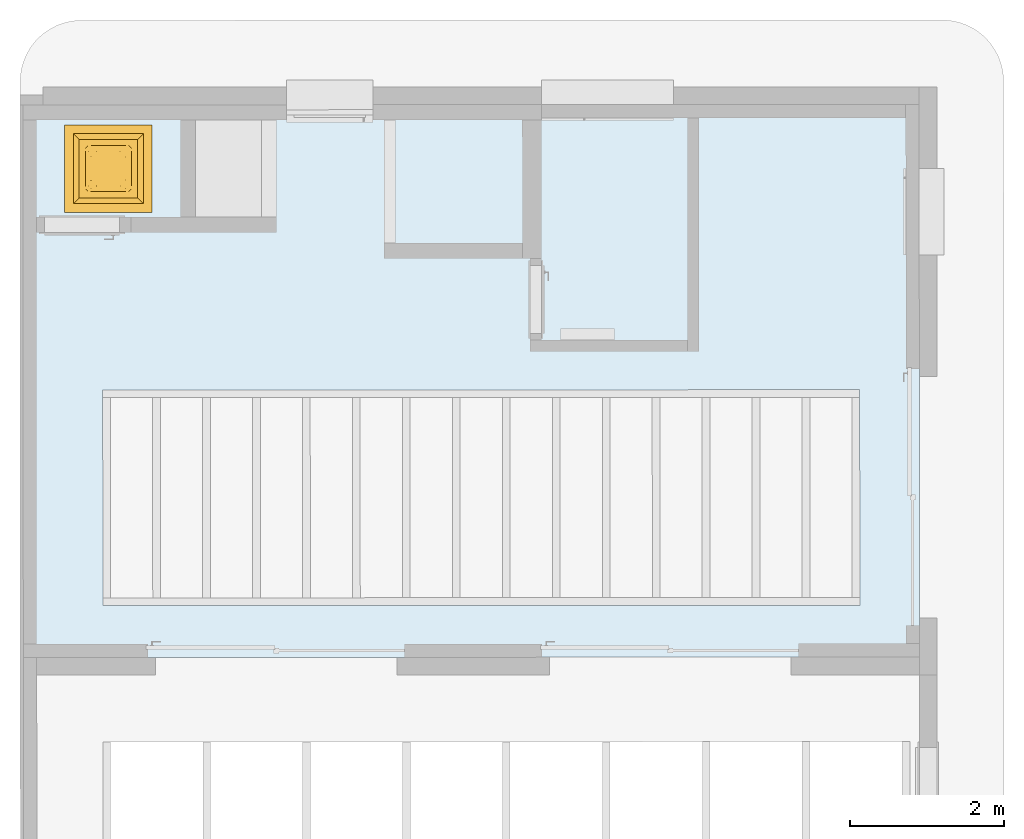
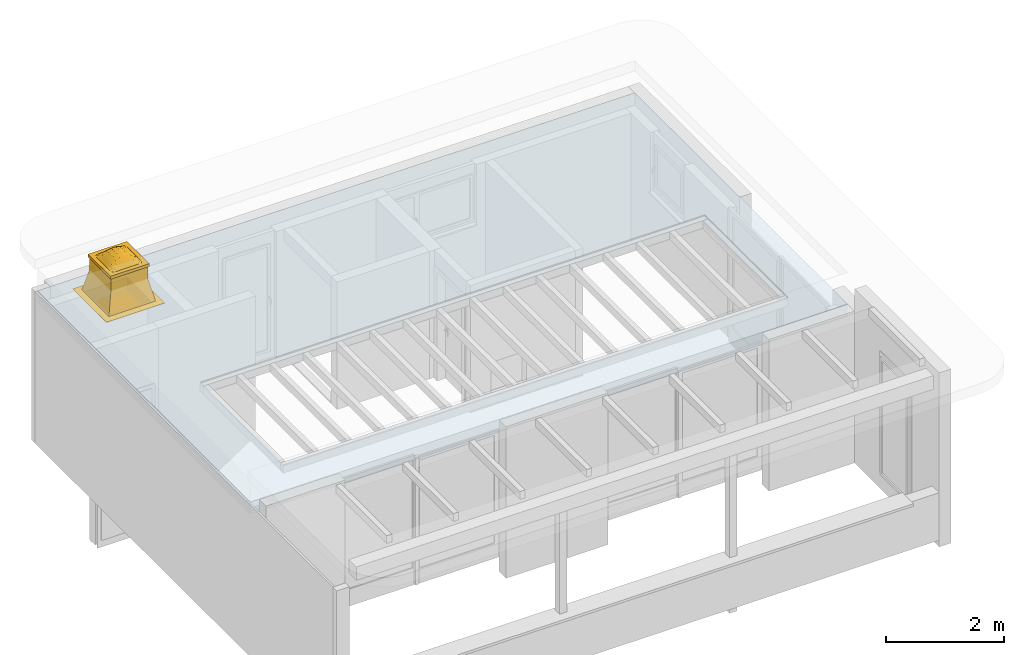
# One storey, part 3 of 7: 1 window, 2 openings, plus 1 element that does not belong to this part.
"""IFC2X3 building model written with IfcOpenShell, lengths in metres."""

from ifc_helpers import new_model, entity, si_unit, converted_unit, derived_unit, direction, frame, frame_2d, origin, origin_with_axes, place, context, subcontext, project, spatial, polyline, rectangle, outline, extrude, closed_shell, open_shell, surface_model, source, transform, mapped, material, type_object, element, fill, save


model = new_model("IFC2X3")

# Units and contexts
model_context = context("Model", 3, precision=1e-05, world=origin(), true_north=direction((0.772621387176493, -0.634867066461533)))
body_context = subcontext(model_context, "Body", "Model", "MODEL_VIEW")
ifc_project = project(units=[si_unit("LENGTHUNIT", "METRE"), si_unit("AREAUNIT", "SQUARE_METRE"), si_unit("VOLUMEUNIT", "CUBIC_METRE"), si_unit("MASSUNIT", "GRAM", prefix="KILO"), converted_unit("PLANEANGLEUNIT", "DEGREE", entity("IfcPlaneAngleMeasure", 0.0174532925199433), si_unit("PLANEANGLEUNIT", "RADIAN"), dimensions=[0, 0, 0, 0, 0, 0, 0]), derived_unit("THERMALTRANSMITTANCEUNIT", [(si_unit("POWERUNIT", "WATT"), 1), (si_unit("THERMODYNAMICTEMPERATUREUNIT", "KELVIN"), -1), (si_unit("LENGTHUNIT", "METRE"), -2)]), derived_unit("VOLUMETRICFLOWRATEUNIT", [(si_unit("LENGTHUNIT", "METRE"), 3), (converted_unit("TIMEUNIT", "hour", entity("IfcTimeMeasure", 3600.0), si_unit("TIMEUNIT", "SECOND"), dimensions=[0, 0, 1, 0, 0, 0, 0]), -1), (si_unit("LENGTHUNIT", "METRE"), -1)])], contexts=[model_context])

# Site, building, storey
site_placement = place(None, origin())
site = spatial("IfcSite", under=ifc_project, at=site_placement, Name="Modelle auf dem Nullpunkt", CompositionType="ELEMENT")
building_placement = place(site_placement, origin())
building = spatial("IfcBuilding", under=site, at=building_placement, Name="I", CompositionType="ELEMENT")
storey_placement = place(building_placement, origin())
storey = spatial("IfcBuildingStorey", under=building, at=storey_placement, Name="3.OG", CompositionType="ELEMENT", Elevation=0.0)

# Slab, openings, window
ifc_material = material(Name="Béton")
slab_placement = place(storey_placement, frame((29.3669477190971, -5.05338546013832, 447.23)))
slab = element("IfcSlab", 1, at=slab_placement, inside=storey, material=ifc_material, PredefinedType="FLOOR", context=body_context, shape_type="SweptSolid", body=[
    extrude(outline(polyline([(11.6599992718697, 7.19412114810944), (0.0, 7.1899995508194), (0.00254153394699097, 0.0), (11.6625408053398, 0.00412159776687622), (11.6599992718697, 7.19412114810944)]), holes=[polyline([(1.03730286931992, 0.675365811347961), (1.03631135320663, 3.48036563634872), (10.8863107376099, 3.4838474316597), (10.8873022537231, 0.678847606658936), (1.03730286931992, 0.675365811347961)])]), origin_with_axes(), (0.0, 0.0, 1.0), 0.26),
])
opening_1_placement = place(slab_placement, frame((0.710151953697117, 5.96025059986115, 0.0)))
opening_1 = element("IfcOpeningElement", 2, at=opening_1_placement, cuts=slab, Name="Deckendurchbruch", ObjectType="Opening", context=body_context, shape_type="SweptSolid", body=[
    extrude(rectangle(XDim=0.799999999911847, YDim=0.799999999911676, at=frame_2d((0.0, 0.0), x_axis=(-0.999999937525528, -0.00035348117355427))), frame((0.400141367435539, 0.400141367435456, 0.0), z_axis=(0.0, 0.0, 1.0), x_axis=(1.0, 0.0, 0.0)), (0.0, 0.0, 1.0), 0.26),
])
opening_2_placement = place(slab_placement, frame((0.710151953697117, 5.96025059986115, 0.71)))
element("IfcOpeningElement", 3, at=opening_2_placement, cuts=slab, Name="Deckendurchbruch", ObjectType="Opening", context=body_context, shape_type="SweptSolid", body=[
    extrude(rectangle(XDim=0.799999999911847, YDim=0.799999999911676, at=frame_2d((0.0, 0.0), x_axis=(-0.999999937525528, -0.00035348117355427))), frame((0.400141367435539, 0.400141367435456, 0.0), z_axis=(0.0, 0.0, 1.0), x_axis=(1.0, 0.0, 0.0)), (0.0, 0.0, 1.0), 0.2),
])
window_style = type_object("IfcWindowStyle", Name="H50 Lichth. Rund", ConstructionType="NOTDEFINED", OperationType="USERDEFINED", ParameterTakesPrecedence=False, Sizeable=False)
shared_shape = source(origin_with_axes(), body_context, "Body", "SurfaceModel", [
    surface_model("IfcShellBasedSurfaceModel", [(0.17, 0.17, 0.0), (0.270038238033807, 0.270038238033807, 0.455), (0.270038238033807, 0.270038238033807, 0.71), (0.210038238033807, 0.210038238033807, 0.71), (0.210038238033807, 0.210038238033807, 0.455), (0.113278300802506, 0.113278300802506, 0.0149105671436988), (0.0, 0.0, 0.00499999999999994), (0.0, 0.0, 0.0), (0.97, 0.17, 0.0), (0.869961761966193, 0.270038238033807, 0.455), (0.869961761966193, 0.270038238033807, 0.71), (0.210038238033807, 0.929961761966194, 0.71), (0.929961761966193, 0.929961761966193, 0.71), (0.929961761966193, 0.210038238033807, 0.71), (0.869961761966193, 0.869961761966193, 0.71), (0.270038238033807, 0.869961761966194, 0.71), (0.929961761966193, 0.210038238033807, 0.455), (1.02672169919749, 0.113278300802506, 0.0149105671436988), (1.14, 0.0, 0.00499999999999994), (1.14, 0.0, 0.0), (1.14, 1.14, 0.0), (0.0, 1.14, 0.0), (0.17, 0.97, 0.0), (0.97, 0.97, 0.0), (0.869961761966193, 0.869961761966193, 0.455), (0.929961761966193, 0.929961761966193, 0.455), (1.02672169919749, 1.02672169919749, 0.0149105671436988), (1.14, 1.14, 0.00499999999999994), (0.270038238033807, 0.869961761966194, 0.455), (0.210038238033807, 0.929961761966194, 0.455), (0.113278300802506, 1.02672169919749, 0.0149105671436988), (0.0, 1.14, 0.00499999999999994)], [closed_shell([[[0, 1, 2, 3, 4, 5, 6, 7]], [[0, 8, 9, 1]], [[1, 9, 10, 2]], [[3, 11, 12, 13], [2, 10, 14, 15]], [[3, 13, 16, 4]], [[4, 16, 17, 5]], [[5, 17, 18, 6]], [[6, 18, 19, 7]], [[7, 19, 20, 21], [0, 22, 23, 8]], [[8, 23, 24, 9]], [[9, 24, 14, 10]], [[13, 12, 25, 16]], [[16, 25, 26, 17]], [[17, 26, 27, 18]], [[18, 27, 20, 19]], [[23, 22, 28, 24]], [[24, 28, 15, 14]], [[12, 11, 29, 25]], [[25, 29, 30, 26]], [[26, 30, 31, 27]], [[27, 31, 21, 20]], [[0, 7, 6, 5, 4, 3, 2, 1]], [[22, 0, 1, 28]], [[28, 1, 2, 15]], [[11, 3, 4, 29]], [[29, 4, 5, 30]], [[30, 5, 6, 31]], [[31, 6, 7, 21]]], orient=[[False], [False], [False], [False, False], [False], [False], [False], [False], [False, False], [False], [False], [False], [False], [False], [False], [False], [False], [False], [False], [False], [False], [False], [False], [False], [False], [False], [False], [False]])]),
    surface_model("IfcShellBasedSurfaceModel", [(0.190038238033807, 0.949961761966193, 0.71), (0.190038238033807, 0.190038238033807, 0.71), (0.949961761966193, 0.190038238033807, 0.71), (0.949961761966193, 0.949961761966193, 0.71), (0.270038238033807, 0.270038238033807, 0.71), (0.270038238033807, 0.869961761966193, 0.71), (0.869961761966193, 0.869961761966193, 0.71), (0.869961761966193, 0.270038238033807, 0.71), (0.190038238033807, 0.190038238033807, 0.77), (0.190038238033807, 0.949961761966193, 0.77), (0.949961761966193, 0.949961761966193, 0.77), (0.949961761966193, 0.190038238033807, 0.77), (0.270038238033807, 0.869961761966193, 0.77), (0.270038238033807, 0.270038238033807, 0.77), (0.869961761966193, 0.270038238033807, 0.77), (0.869961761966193, 0.869961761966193, 0.77)], [closed_shell([[[0, 1, 2, 3], [4, 5, 6, 7]], [[8, 9, 10, 11], [12, 13, 14, 15]], [[1, 0, 9, 8]], [[2, 1, 8, 11]], [[3, 2, 11, 10]], [[0, 3, 10, 9]], [[4, 13, 12, 5]], [[7, 14, 13, 4]], [[6, 15, 14, 7]], [[5, 12, 15, 6]]], orient=[[False, False], [False, False], [False], [False], [False], [False], [False], [False], [False], [False]])]),
    surface_model("IfcShellBasedSurfaceModel", [(0.270038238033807, 0.420019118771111, 0.77), (0.307533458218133, 0.345028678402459, 0.7905078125), (0.270038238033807, 0.345028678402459, 0.77), (0.307533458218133, 0.794971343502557, 0.7905078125), (0.270038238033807, 0.71998089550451, 0.77), (0.270038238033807, 0.794971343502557, 0.77), (0.420019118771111, 0.345028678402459, 0.835625), (0.345028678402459, 0.307533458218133, 0.7905078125), (0.345028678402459, 0.345028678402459, 0.80828125), (0.71998089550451, 0.270038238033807, 0.77), (0.794971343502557, 0.307533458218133, 0.7905078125), (0.794971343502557, 0.270038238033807, 0.77), (0.420019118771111, 0.270038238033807, 0.77), (0.345028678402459, 0.270038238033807, 0.77), (0.794971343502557, 0.420019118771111, 0.835625), (0.832466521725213, 0.345028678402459, 0.7905078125), (0.794971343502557, 0.345028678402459, 0.80828125), (0.420019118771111, 0.869961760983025, 0.77), (0.345028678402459, 0.832466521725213, 0.7905078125), (0.345028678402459, 0.869961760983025, 0.77), (0.794971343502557, 0.832466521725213, 0.7905078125), (0.71998089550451, 0.869961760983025, 0.77), (0.794971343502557, 0.869961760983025, 0.77), (0.345028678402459, 0.71998089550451, 0.835625), (0.345028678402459, 0.794971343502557, 0.80828125), (0.869961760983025, 0.71998089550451, 0.77), (0.832466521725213, 0.794971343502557, 0.7905078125), (0.869961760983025, 0.794971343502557, 0.77), (0.869961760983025, 0.420019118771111, 0.77), (0.869961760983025, 0.345028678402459, 0.77), (0.71998089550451, 0.794971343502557, 0.835625), (0.794971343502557, 0.794971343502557, 0.80828125), (0.345028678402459, 0.420019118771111, 0.835625), (0.420019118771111, 0.420019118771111, 0.8825), (0.345028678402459, 0.495009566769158, 0.85203125), (0.270038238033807, 0.569999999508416, 0.77), (0.345028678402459, 0.569999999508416, 0.8575), (0.270038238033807, 0.495009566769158, 0.77), (0.345028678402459, 0.644990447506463, 0.85203125), (0.270038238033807, 0.644990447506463, 0.77), (0.420019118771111, 0.495009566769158, 0.910625), (0.420019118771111, 0.569999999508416, 0.92), (0.569999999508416, 0.495009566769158, 0.9575), (0.495009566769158, 0.569999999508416, 0.9575), (0.569999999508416, 0.569999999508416, 0.97), (0.495009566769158, 0.495009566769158, 0.94578125), (0.569999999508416, 0.420019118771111, 0.92), (0.495009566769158, 0.420019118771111, 0.910625), (0.495009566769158, 0.345028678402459, 0.85203125), (0.569999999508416, 0.270038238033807, 0.77), (0.495009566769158, 0.270038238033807, 0.77), (0.644990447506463, 0.345028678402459, 0.85203125), (0.644990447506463, 0.270038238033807, 0.77), (0.569999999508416, 0.345028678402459, 0.8575), (0.71998089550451, 0.345028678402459, 0.835625), (0.644990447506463, 0.420019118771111, 0.910625), (0.71998089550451, 0.420019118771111, 0.8825), (0.644990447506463, 0.569999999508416, 0.9575), (0.644990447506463, 0.495009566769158, 0.94578125), (0.71998089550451, 0.569999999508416, 0.92), (0.71998089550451, 0.495009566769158, 0.910625), (0.794971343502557, 0.495009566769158, 0.85203125), (0.869961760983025, 0.569999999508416, 0.77), (0.869961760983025, 0.495009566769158, 0.77), (0.794971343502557, 0.644990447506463, 0.85203125), (0.869961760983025, 0.644990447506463, 0.77), (0.794971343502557, 0.569999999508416, 0.8575), (0.794971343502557, 0.71998089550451, 0.835625), (0.420019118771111, 0.71998089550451, 0.8825), (0.420019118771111, 0.644990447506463, 0.910625), (0.420019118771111, 0.794971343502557, 0.835625), (0.495009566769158, 0.794971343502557, 0.85203125), (0.569999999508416, 0.869961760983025, 0.77), (0.569999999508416, 0.794971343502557, 0.8575), (0.495009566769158, 0.869961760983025, 0.77), (0.644990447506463, 0.794971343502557, 0.85203125), (0.644990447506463, 0.869961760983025, 0.77), (0.495009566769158, 0.71998089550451, 0.910625), (0.569999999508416, 0.71998089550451, 0.92), (0.569999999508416, 0.644990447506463, 0.9575), (0.495009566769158, 0.644990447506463, 0.94578125), (0.644990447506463, 0.644990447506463, 0.94578125), (0.644990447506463, 0.71998089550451, 0.910625), (0.71998089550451, 0.644990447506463, 0.910625), (0.71998089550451, 0.71998089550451, 0.8825), (0.270038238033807, 0.307533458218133, 0.77), (0.307533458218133, 0.270038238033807, 0.77), (0.270038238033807, 0.270038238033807, 0.77), (0.832466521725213, 0.270038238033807, 0.77), (0.869961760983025, 0.307533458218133, 0.77), (0.869961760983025, 0.270038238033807, 0.77), (0.307533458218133, 0.869961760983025, 0.77), (0.270038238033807, 0.832466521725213, 0.77), (0.270038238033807, 0.869961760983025, 0.77), (0.869961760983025, 0.832466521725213, 0.77), (0.832466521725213, 0.869961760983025, 0.77), (0.869961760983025, 0.869961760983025, 0.77), (0.307533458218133, 0.307533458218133, 0.780986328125), (0.307533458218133, 0.832466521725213, 0.780986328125), (0.832466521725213, 0.307533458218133, 0.780986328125), (0.832466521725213, 0.832466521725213, 0.780986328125)], [open_shell([[[0, 1, 2]], [[3, 4, 5]], [[6, 7, 8]], [[9, 10, 11]], [[7, 12, 13]], [[14, 15, 16]], [[17, 18, 19]], [[20, 21, 22]], [[23, 3, 24]], [[25, 26, 27]], [[15, 28, 29]], [[30, 20, 31]], [[6, 32, 33]], [[32, 6, 8]], [[34, 35, 36]], [[35, 34, 37]], [[38, 35, 39]], [[40, 36, 41]], [[36, 40, 34]], [[34, 33, 32]], [[33, 34, 40]], [[37, 32, 0]], [[23, 39, 4]], [[32, 37, 34]], [[42, 43, 44]], [[43, 42, 45]], [[45, 46, 47]], [[46, 45, 42]], [[40, 47, 33]], [[47, 40, 45]], [[45, 41, 43]], [[41, 45, 40]], [[48, 49, 50]], [[49, 51, 52]], [[49, 48, 53]], [[6, 50, 12]], [[52, 54, 9]], [[50, 6, 48]], [[48, 33, 47]], [[33, 48, 6]], [[53, 47, 46]], [[47, 53, 48]], [[51, 49, 53]], [[55, 53, 46]], [[53, 55, 51]], [[51, 56, 54]], [[56, 51, 55]], [[54, 52, 51]], [[57, 42, 44]], [[42, 57, 58]], [[58, 59, 60]], [[59, 58, 57]], [[55, 60, 56]], [[60, 55, 58]], [[58, 46, 42]], [[46, 58, 55]], [[61, 62, 63]], [[62, 64, 65]], [[62, 61, 66]], [[14, 63, 28]], [[65, 67, 25]], [[63, 14, 61]], [[61, 56, 60]], [[56, 61, 14]], [[66, 60, 59]], [[60, 66, 61]], [[14, 54, 56]], [[54, 14, 16]], [[35, 38, 36]], [[39, 23, 38]], [[38, 68, 69]], [[68, 38, 23]], [[36, 69, 41]], [[69, 36, 38]], [[23, 70, 68]], [[70, 23, 24]], [[71, 72, 73]], [[72, 71, 74]], [[75, 72, 76]], [[77, 73, 78]], [[73, 77, 71]], [[71, 68, 70]], [[68, 71, 77]], [[74, 70, 17]], [[30, 76, 21]], [[70, 74, 71]], [[43, 79, 44]], [[79, 43, 80]], [[80, 41, 69]], [[41, 80, 43]], [[77, 69, 68]], [[69, 77, 80]], [[80, 78, 79]], [[78, 80, 77]], [[79, 57, 44]], [[57, 79, 81]], [[81, 78, 82]], [[78, 81, 79]], [[83, 82, 84]], [[82, 83, 81]], [[81, 59, 57]], [[59, 81, 83]], [[72, 75, 73]], [[76, 30, 75]], [[75, 84, 82]], [[84, 75, 30]], [[73, 82, 78]], [[82, 73, 75]], [[30, 67, 84]], [[67, 30, 31]], [[64, 62, 66]], [[83, 66, 59]], [[66, 83, 64]], [[64, 84, 67]], [[84, 64, 83]], [[67, 65, 64]], [[85, 86, 87]], [[88, 89, 90]], [[91, 92, 93]], [[94, 95, 96]], [[86, 85, 97]], [[97, 2, 1]], [[2, 97, 85]], [[98, 5, 92]], [[7, 1, 8]], [[1, 7, 97]], [[97, 13, 86]], [[11, 99, 88]], [[13, 97, 7]], [[89, 88, 99]], [[99, 11, 10]], [[15, 10, 16]], [[10, 15, 99]], [[99, 29, 89]], [[27, 100, 94]], [[29, 99, 15]], [[92, 91, 98]], [[98, 19, 18]], [[19, 98, 91]], [[100, 22, 95]], [[3, 18, 24]], [[18, 3, 98]], [[5, 98, 3]], [[95, 94, 100]], [[100, 27, 26]], [[20, 26, 31]], [[26, 20, 100]], [[22, 100, 20]], [[32, 1, 0]], [[1, 32, 8]], [[12, 7, 6]], [[54, 10, 9]], [[10, 54, 16]], [[28, 15, 14]], [[70, 18, 17]], [[18, 70, 24]], [[4, 3, 23]], [[67, 26, 25]], [[26, 67, 31]], [[21, 20, 30]]], orient=[[False], [False], [False], [False], [False], [False], [False], [False], [False], [False], [False], [False], [False], [False], [False], [False], [False], [False], [False], [False], [False], [False], [False], [False], [False], [False], [False], [False], [False], [False], [False], [False], [False], [False], [False], [False], [False], [False], [False], [False], [False], [False], [False], [False], [False], [False], [False], [False], [False], [False], [False], [False], [False], [False], [False], [False], [False], [False], [False], [False], [False], [False], [False], [False], [False], [False], [False], [False], [False], [False], [False], [False], [False], [False], [False], [False], [False], [False], [False], [False], [False], [False], [False], [False], [False], [False], [False], [False], [False], [False], [False], [False], [False], [False], [False], [False], [False], [False], [False], [False], [False], [False], [False], [False], [False], [False], [False], [False], [False], [False], [False], [False], [False], [False], [False], [False], [False], [False], [False], [False], [False], [False], [False], [False], [False], [False], [False], [False], [False], [False], [False], [False], [False], [False], [False], [False], [False], [False], [False], [False], [False], [False], [False], [False], [False], [False], [False], [False], [False], [False], [False], [False], [False], [False], [False], [False], [False], [False], [False], [False]])]),
])
window_placement = place(opening_1_placement, frame((-0.169657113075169, -0.170060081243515, 0.26), z_axis=(0.0, 0.0, 1.0), x_axis=(0.999999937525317, 0.000353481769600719, 0.0)))
window = element("IfcWindow", 4, at=window_placement, inside=storey, type_object=window_style, Name="H50 Lichth. Rund", OverallHeight=1.14, OverallWidth=1.14, context=body_context, shape_type="MappedRepresentation", body=[
    mapped(shared_shape, transform((0.0, 0.0, 0.0), x_axis=(1.0, 0.0, 0.0), y_axis=(0.0, 1.0, 0.0), z_axis=(0.0, 0.0, 1.0), scale=1.0)),
])
fill(opening_1, window)

save(model, "model.ifc")
